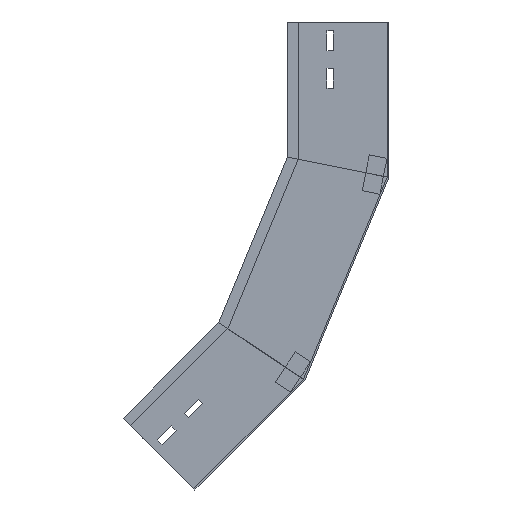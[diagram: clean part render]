
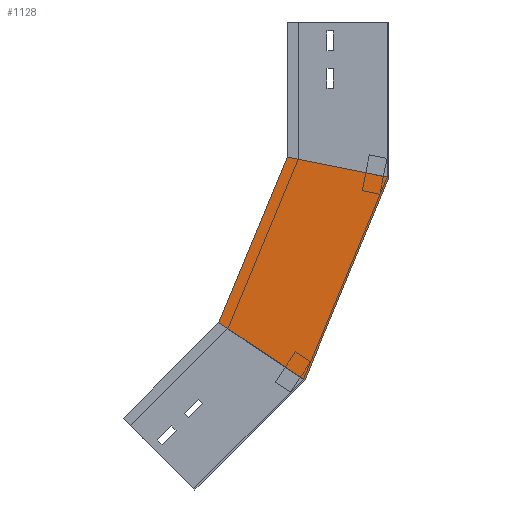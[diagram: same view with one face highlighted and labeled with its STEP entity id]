
A CAD part, left-side view. The second image highlights one B-rep face of the part: STEP entity #1128.
In plain terms, the highlighted planar face has unit normal (-1, 0, 0) as drawn and (1, 0, 0) by its records, which use the part's own axes.
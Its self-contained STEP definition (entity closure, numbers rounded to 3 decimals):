
#54 = ORIENTED_EDGE ( 'NONE', *, *, #845, .F. ) ;
#61 = DIRECTION ( 'NONE',  ( 0., 0.383, -0.924 ) ) ;
#103 = CARTESIAN_POINT ( 'NONE',  ( 0., 93.03, -396.695 ) ) ;
#108 = VERTEX_POINT ( 'NONE', #806 ) ;
#113 = ORIENTED_EDGE ( 'NONE', *, *, #700, .T. ) ;
#157 = VERTEX_POINT ( 'NONE', #343 ) ;
#165 = EDGE_CURVE ( 'NONE', #157, #816, #208, .T. ) ;
#208 = LINE ( 'NONE', #562, #363 ) ;
#210 = VECTOR ( 'NONE', #462, 1000. ) ;
#220 = DIRECTION ( 'NONE',  ( 0., 0.383, -0.924 ) ) ;
#250 = FACE_OUTER_BOUND ( 'NONE', #1380, .T. ) ;
#262 = CARTESIAN_POINT ( 'NONE',  ( 0., 112.5, -149.722 ) ) ;
#269 = VECTOR ( 'NONE', #1460, 1000. ) ;
#343 = CARTESIAN_POINT ( 'NONE',  ( 0., 0., -172.1 ) ) ;
#363 = VECTOR ( 'NONE', #220, 1000. ) ;
#367 = DIRECTION ( 'NONE',  ( -1., 0., 0. ) ) ;
#462 = DIRECTION ( 'NONE',  ( 0., -0.831, -0.556 ) ) ;
#511 = DIRECTION ( 'NONE',  ( 0., 0., 1. ) ) ;
#562 = CARTESIAN_POINT ( 'NONE',  ( 0., 0., -172.1 ) ) ;
#632 = CARTESIAN_POINT ( 'NONE',  ( 0., 103.936, -129.048 ) ) ;
#700 = EDGE_CURVE ( 'NONE', #1043, #157, #784, .T. ) ;
#784 = LINE ( 'NONE', #1198, #269 ) ;
#806 = CARTESIAN_POINT ( 'NONE',  ( 0., 188.403, -332.969 ) ) ;
#816 = VERTEX_POINT ( 'NONE', #103 ) ;
#845 = EDGE_CURVE ( 'NONE', #108, #816, #1134, .T. ) ;
#848 = PLANE ( 'NONE',  #1226 ) ;
#857 = CARTESIAN_POINT ( 'NONE',  ( 0., 0., -172.1 ) ) ;
#869 = LINE ( 'NONE', #632, #1080 ) ;
#1043 = VERTEX_POINT ( 'NONE', #262 ) ;
#1080 = VECTOR ( 'NONE', #61, 1000. ) ;
#1128 = ADVANCED_FACE ( 'NONE', ( #250 ), #848, .F. ) ;
#1134 = LINE ( 'NONE', #1491, #210 ) ;
#1198 = CARTESIAN_POINT ( 'NONE',  ( 0., 32.93, -165.55 ) ) ;
#1226 = AXIS2_PLACEMENT_3D ( 'NONE', #857, #367, #511 ) ;
#1240 = ORIENTED_EDGE ( 'NONE', *, *, #165, .T. ) ;
#1246 = EDGE_CURVE ( 'NONE', #1043, #108, #869, .T. ) ;
#1301 = ORIENTED_EDGE ( 'NONE', *, *, #1246, .F. ) ;
#1380 = EDGE_LOOP ( 'NONE', ( #1301, #113, #1240, #54 ) ) ;
#1460 = DIRECTION ( 'NONE',  ( 0., -0.981, -0.195 ) ) ;
#1491 = CARTESIAN_POINT ( 'NONE',  ( 0., 132.464, -370.346 ) ) ;
